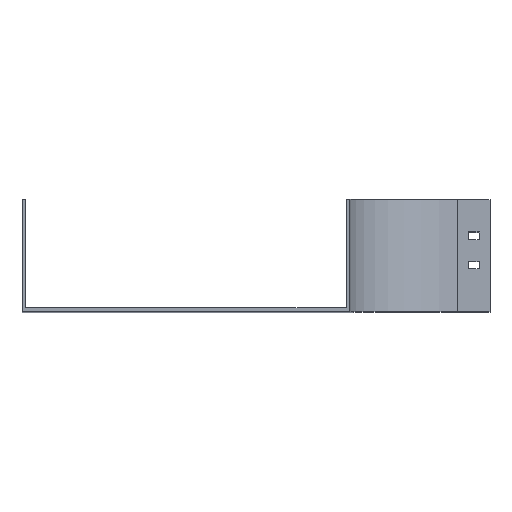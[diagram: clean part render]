
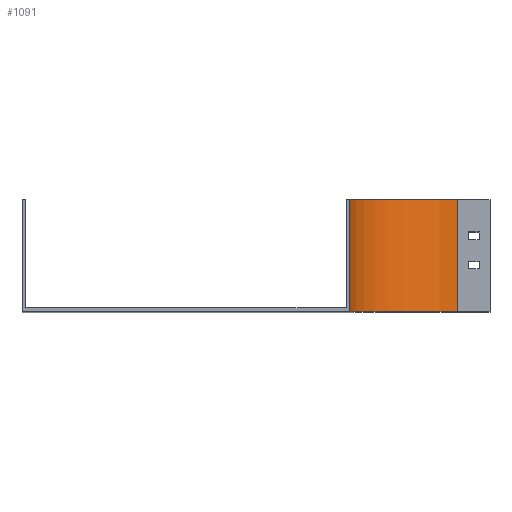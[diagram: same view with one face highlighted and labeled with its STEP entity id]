
A CAD part, top view. The second image highlights one B-rep face of the part: STEP entity #1091.
In plain terms, the highlighted cylindrical face has radius 100 mm (diameter 200 mm), a partial arc.
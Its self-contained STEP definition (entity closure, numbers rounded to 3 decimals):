
#70 = FACE_OUTER_BOUND ( 'NONE', #1324, .T. ) ;
#75 = DIRECTION ( 'NONE',  ( 0., -1., 0. ) ) ;
#78 = DIRECTION ( 'NONE',  ( 0., 0., -1. ) ) ;
#81 = CARTESIAN_POINT ( 'NONE',  ( 0., 104., -100. ) ) ;
#117 = AXIS2_PLACEMENT_3D ( 'NONE', #2744, #1283, #1271 ) ;
#236 = ORIENTED_EDGE ( 'NONE', *, *, #913, .F. ) ;
#290 = LINE ( 'NONE', #1994, #2369 ) ;
#295 = CARTESIAN_POINT ( 'NONE',  ( 0., 0., 0. ) ) ;
#411 = CARTESIAN_POINT ( 'NONE',  ( 0., 0., -100. ) ) ;
#431 = CARTESIAN_POINT ( 'NONE',  ( -100., 104., 0. ) ) ;
#605 = EDGE_CURVE ( 'NONE', #1468, #2519, #843, .T. ) ;
#611 = VECTOR ( 'NONE', #2518, 1000. ) ;
#828 = CARTESIAN_POINT ( 'NONE',  ( -100., 0., 0. ) ) ;
#843 = CIRCLE ( 'NONE', #2164, 100. ) ;
#885 = CARTESIAN_POINT ( 'NONE',  ( 0., 104., -100. ) ) ;
#891 = CARTESIAN_POINT ( 'NONE',  ( 0., 104., 0. ) ) ;
#913 = EDGE_CURVE ( 'NONE', #2513, #2519, #947, .T. ) ;
#947 = LINE ( 'NONE', #81, #611 ) ;
#1091 = ADVANCED_FACE ( 'NONE', ( #70 ), #1771, .F. ) ;
#1211 = ORIENTED_EDGE ( 'NONE', *, *, #2526, .T. ) ;
#1271 = DIRECTION ( 'NONE',  ( 0., 0., -1. ) ) ;
#1283 = DIRECTION ( 'NONE',  ( 0., -1., 0. ) ) ;
#1324 = EDGE_LOOP ( 'NONE', ( #1474, #236, #2486, #1211 ) ) ;
#1468 = VERTEX_POINT ( 'NONE', #828 ) ;
#1474 = ORIENTED_EDGE ( 'NONE', *, *, #605, .T. ) ;
#1498 = DIRECTION ( 'NONE',  ( 0., -1., 0. ) ) ;
#1755 = VERTEX_POINT ( 'NONE', #431 ) ;
#1771 = CYLINDRICAL_SURFACE ( 'NONE', #2544, 100. ) ;
#1830 = EDGE_CURVE ( 'NONE', #1755, #2513, #2482, .T. ) ;
#1977 = DIRECTION ( 'NONE',  ( 0., 0., -1. ) ) ;
#1994 = CARTESIAN_POINT ( 'NONE',  ( -100., 104., 0. ) ) ;
#1999 = DIRECTION ( 'NONE',  ( 0., -1., 0. ) ) ;
#2164 = AXIS2_PLACEMENT_3D ( 'NONE', #295, #1999, #78 ) ;
#2369 = VECTOR ( 'NONE', #75, 1000. ) ;
#2482 = CIRCLE ( 'NONE', #117, 100. ) ;
#2486 = ORIENTED_EDGE ( 'NONE', *, *, #1830, .F. ) ;
#2513 = VERTEX_POINT ( 'NONE', #885 ) ;
#2518 = DIRECTION ( 'NONE',  ( 0., -1., 0. ) ) ;
#2519 = VERTEX_POINT ( 'NONE', #411 ) ;
#2526 = EDGE_CURVE ( 'NONE', #1755, #1468, #290, .T. ) ;
#2544 = AXIS2_PLACEMENT_3D ( 'NONE', #891, #1498, #1977 ) ;
#2744 = CARTESIAN_POINT ( 'NONE',  ( 0., 104., 0. ) ) ;
